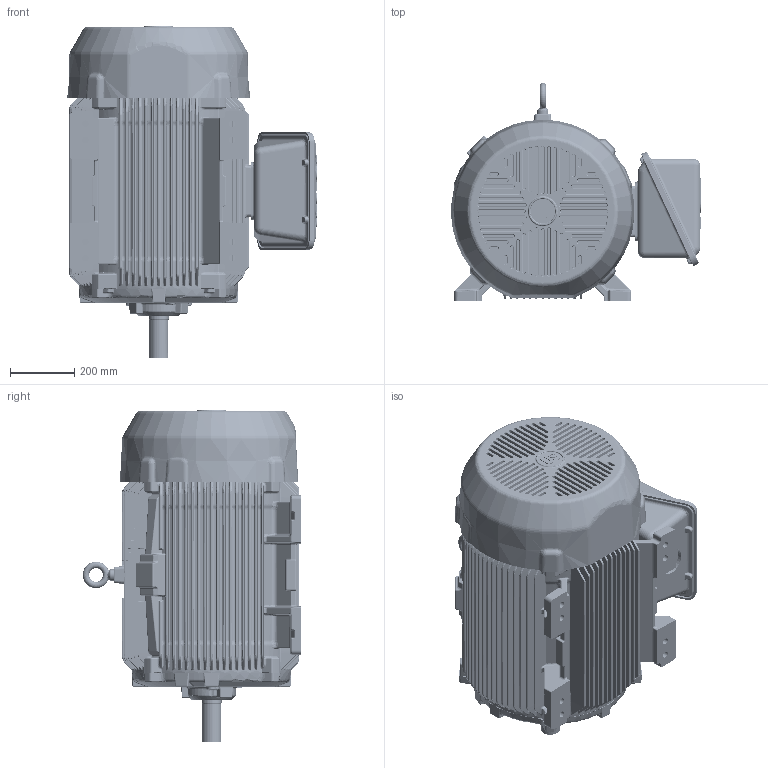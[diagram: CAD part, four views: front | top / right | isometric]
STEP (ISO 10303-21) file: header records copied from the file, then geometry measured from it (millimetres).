
FILE_DESCRIPTION((''),'2;1');
FILE_NAME('440_3D_ASM_ASM','2018-07-25T10:42:37',('EMD2341'),('Nidec Motor Corporation'),'CREO PARAMETRIC BY PTC INC, 2018020','CREO PARAMETRIC BY PTC INC, 2018020','');
FILE_SCHEMA(('CONFIG_CONTROL_DESIGN'));
Length unit declared in the file: inch
Products named in the file (10): 440_FOOTED_FRAME; 440_CAST_FCVR; 0011046; 440_TS; 440_CAST_GSK_OBB; 440_OBB_NEMA; 440_CAST_GSK_OBC; 440_CAST_OBC; 440_ODE_BRKT; 440_3D_ASM_ASM
Assembly tree (9 placements, depth 2):
  440_3D_ASM_ASM
    440_FOOTED_FRAME
    440_CAST_FCVR
    0011046
    440_TS
    440_CAST_GSK_OBB
    440_OBB_NEMA
    440_CAST_GSK_OBC
    440_CAST_OBC
    440_ODE_BRKT
Bounding box: 778.3 x 681.1 x 1035.05 mm (x, y, z)
Volume: 211816483.5 mm3; surface area: 6176317 mm2
Topology: 9 solids, 10 shells, 6453 faces, 14822 edges, 8461 vertices
Faces by surface type: bspline 2763, cylinder 1309, plane 1170, torus 492, extrusion 460, cone 167, sphere 92
Entity records: 293293 total; most frequent: CARTESIAN_POINT 167524, ORIENTED_EDGE 29640, DIRECTION 20577, EDGE_CURVE 14822, VERTEX_POINT 8461, AXIS2_PLACEMENT_3D 7711, EDGE_LOOP 6555, FACE_OUTER_BOUND 6453
